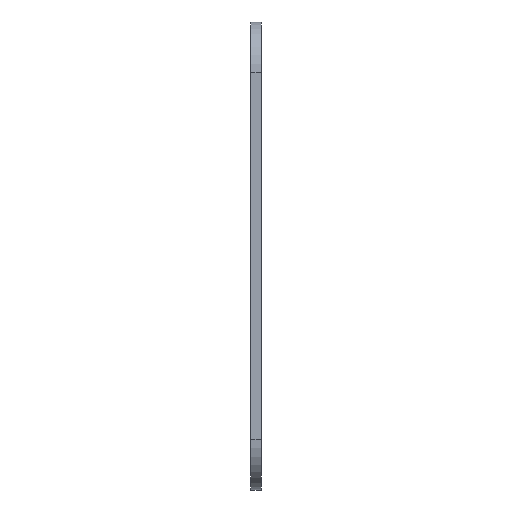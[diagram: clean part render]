
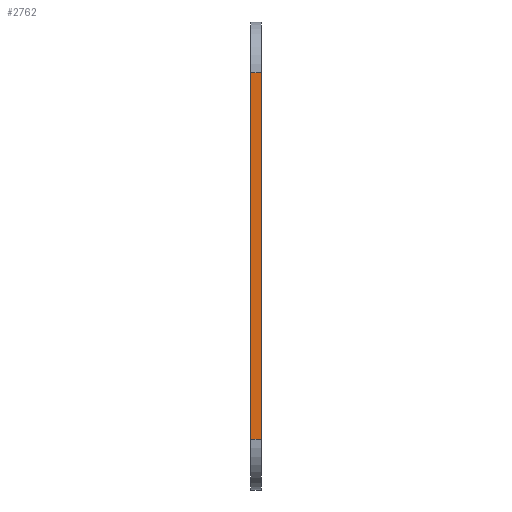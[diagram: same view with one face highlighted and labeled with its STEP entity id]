
A CAD part, left-side view. The second image highlights one B-rep face of the part: STEP entity #2762.
In plain terms, the highlighted planar face has unit normal (-1, 0, 0).
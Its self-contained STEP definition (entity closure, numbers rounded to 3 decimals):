
#66 = VERTEX_POINT ( 'NONE', #1606 ) ;
#114 = VECTOR ( 'NONE', #2503, 1000. ) ;
#293 = DIRECTION ( 'NONE',  ( 0., 0., -1. ) ) ;
#478 = ORIENTED_EDGE ( 'NONE', *, *, #847, .T. ) ;
#610 = EDGE_LOOP ( 'NONE', ( #2102, #2778, #478, #4522 ) ) ;
#660 = LINE ( 'NONE', #3647, #3878 ) ;
#688 = LINE ( 'NONE', #4921, #3089 ) ;
#732 = EDGE_CURVE ( 'NONE', #4701, #1603, #660, .T. ) ;
#847 = EDGE_CURVE ( 'NONE', #66, #4701, #688, .T. ) ;
#894 = FACE_OUTER_BOUND ( 'NONE', #610, .T. ) ;
#930 = DIRECTION ( 'NONE',  ( 0., 1., 0. ) ) ;
#955 = CARTESIAN_POINT ( 'NONE',  ( -100., 0., -53.943 ) ) ;
#1220 = EDGE_CURVE ( 'NONE', #2687, #1603, #1420, .T. ) ;
#1234 = AXIS2_PLACEMENT_3D ( 'NONE', #4348, #3953, #293 ) ;
#1420 = LINE ( 'NONE', #4903, #2511 ) ;
#1452 = CARTESIAN_POINT ( 'NONE',  ( -100., 3., 53.943 ) ) ;
#1603 = VERTEX_POINT ( 'NONE', #1452 ) ;
#1606 = CARTESIAN_POINT ( 'NONE',  ( -100., 0., -53.943 ) ) ;
#1926 = EDGE_CURVE ( 'NONE', #2687, #66, #2193, .T. ) ;
#2102 = ORIENTED_EDGE ( 'NONE', *, *, #1220, .F. ) ;
#2193 = LINE ( 'NONE', #955, #114 ) ;
#2266 = DIRECTION ( 'NONE',  ( 0., 0., 1. ) ) ;
#2503 = DIRECTION ( 'NONE',  ( 0., -1., 0. ) ) ;
#2511 = VECTOR ( 'NONE', #4468, 1000. ) ;
#2572 = CARTESIAN_POINT ( 'NONE',  ( -100., 0., 53.943 ) ) ;
#2687 = VERTEX_POINT ( 'NONE', #4025 ) ;
#2762 = ADVANCED_FACE ( 'NONE', ( #894 ), #3615, .F. ) ;
#2778 = ORIENTED_EDGE ( 'NONE', *, *, #1926, .T. ) ;
#3089 = VECTOR ( 'NONE', #2266, 1000. ) ;
#3615 = PLANE ( 'NONE',  #1234 ) ;
#3647 = CARTESIAN_POINT ( 'NONE',  ( -100., 3., 53.943 ) ) ;
#3878 = VECTOR ( 'NONE', #930, 1000. ) ;
#3953 = DIRECTION ( 'NONE',  ( 1., 0., 0. ) ) ;
#4025 = CARTESIAN_POINT ( 'NONE',  ( -100., 3., -53.943 ) ) ;
#4348 = CARTESIAN_POINT ( 'NONE',  ( -100., 3., 0. ) ) ;
#4468 = DIRECTION ( 'NONE',  ( 0., 0., 1. ) ) ;
#4522 = ORIENTED_EDGE ( 'NONE', *, *, #732, .T. ) ;
#4701 = VERTEX_POINT ( 'NONE', #2572 ) ;
#4903 = CARTESIAN_POINT ( 'NONE',  ( -100., 3., 0. ) ) ;
#4921 = CARTESIAN_POINT ( 'NONE',  ( -100., 0., 0. ) ) ;
